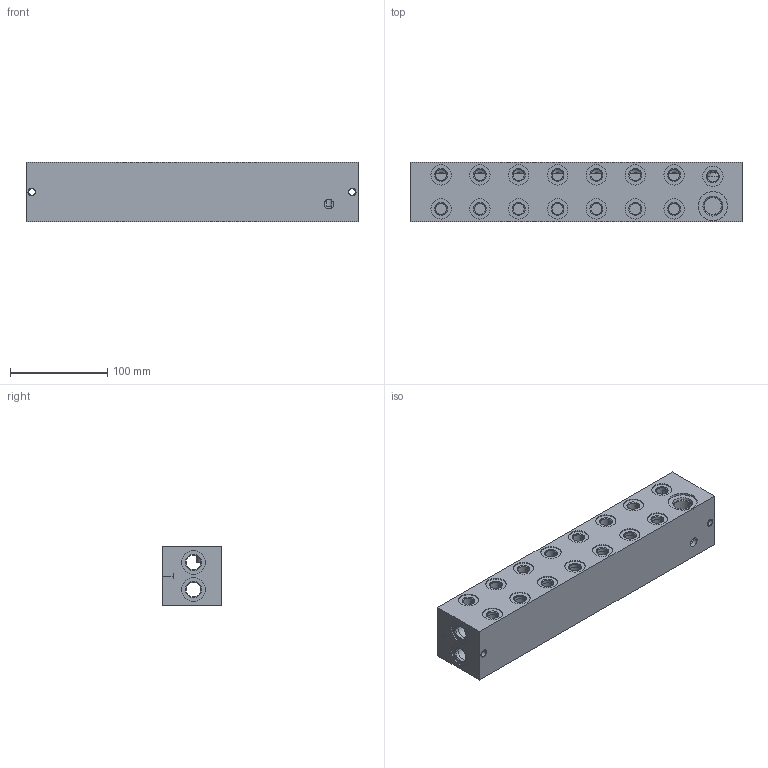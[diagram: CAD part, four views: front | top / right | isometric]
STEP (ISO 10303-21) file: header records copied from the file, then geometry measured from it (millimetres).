
FILE_DESCRIPTION((''),'2;1');
FILE_NAME('760_7070','2015-11-27T',('Ahcz.brigadnik05'),(''),'PRO/ENGINEER BY PARAMETRIC TECHNOLOGY CORPORATION, 2015110','PRO/ENGINEER BY PARAMETRIC TECHNOLOGY CORPORATION, 2015110','');
FILE_SCHEMA(('AUTOMOTIVE_DESIGN { 1 0 10303 214 1 1 1 1 }'));
Length unit declared in the file: millimetre
Products named in the file (1): 760_7070
Bounding box: 342 x 61 x 61 mm (x, y, z)
Volume: 469665 mm3; surface area: 187885.5 mm2
Topology: 1 solids, 56 shells, 497 faces, 2303 edges, 2172 vertices
Faces by surface type: cylinder 337, plane 94, cone 66
Entity records: 25734 total; most frequent: CARTESIAN_POINT 5499, DIRECTION 3958, ORIENTED_EDGE 2554, VECTOR 1390, LINE 1390, EDGE_CURVE 1387, AXIS2_PLACEMENT_3D 1284, VERTEX_POINT 945
